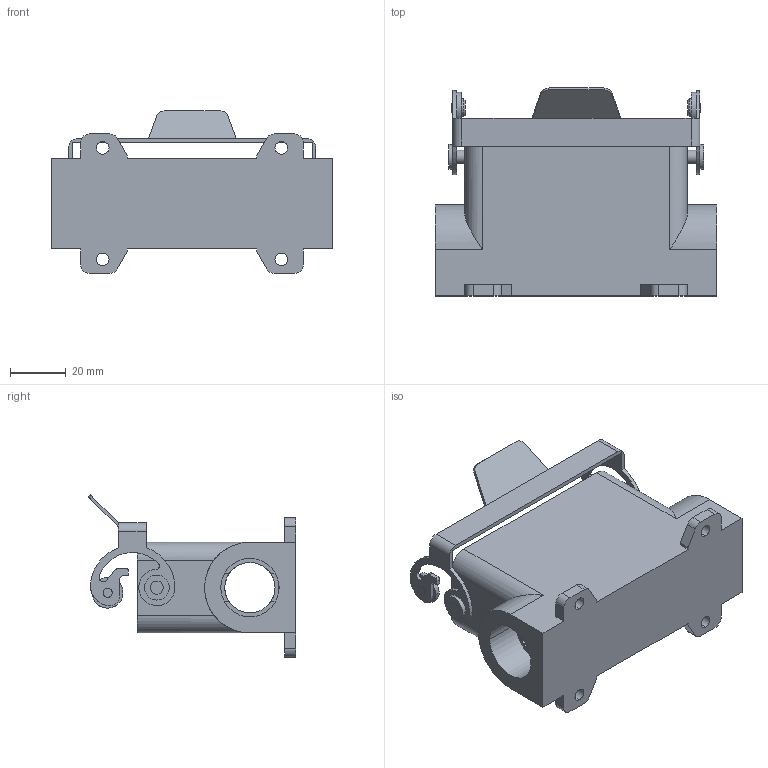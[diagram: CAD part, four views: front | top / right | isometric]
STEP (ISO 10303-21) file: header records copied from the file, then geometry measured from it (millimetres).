
FILE_DESCRIPTION (( 'STEP AP214' ), '1' );
FILE_NAME ('CZAP-25L2.STEP', '2013-01-04T19:50:35', ( 'Mencom User' ), ( 'Hewlett-Packard Company' ), 'SwSTEP 2.0', 'SolidWorks 2012', '' );
FILE_SCHEMA (( 'AUTOMOTIVE_DESIGN' ));
Length unit declared in the file: inch
Products named in the file (1): CZAP-25L2
Bounding box: 101 x 74.57 x 58.34 mm (x, y, z)
Volume: 70307.7 mm3; surface area: 38291.9 mm2
Topology: 2 solids, 2 shells, 220 faces, 577 edges, 378 vertices
Faces by surface type: cylinder 111, plane 105, cone 4
Entity records: 9922 total; most frequent: CARTESIAN_POINT 1358, DIRECTION 1239, ORIENTED_EDGE 1154, EDGE_CURVE 577, AXIS2_PLACEMENT_3D 455, VERTEX_POINT 378, VECTOR 329, LINE 329
